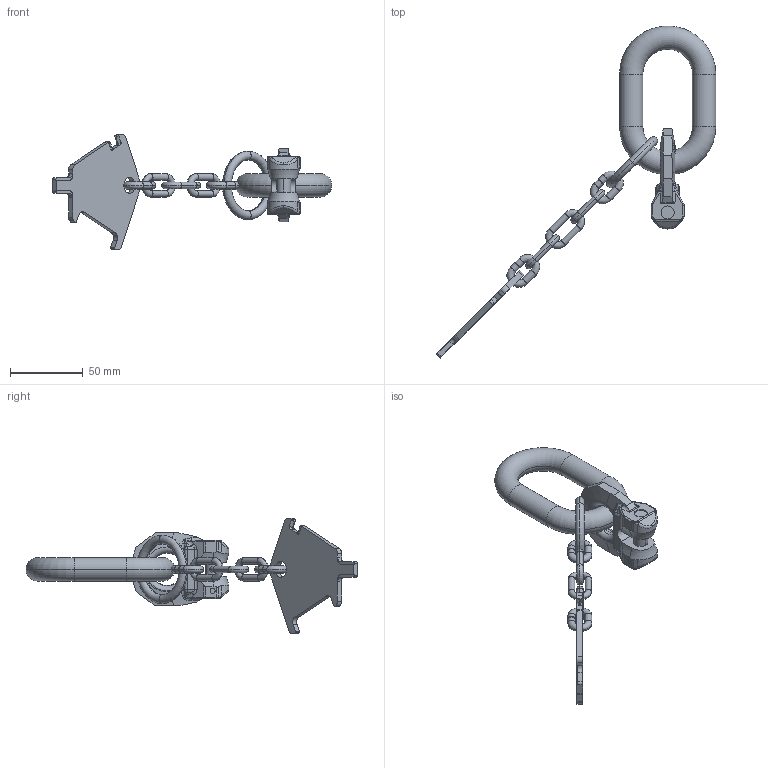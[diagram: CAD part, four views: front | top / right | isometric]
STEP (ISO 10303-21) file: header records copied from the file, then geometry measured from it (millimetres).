
FILE_DESCRIPTION((''),'2;1');
FILE_NAME('001-M34472-P-2_ASM','2014-10-14T',('Andreas.Wendler'),(''),'PRO/ENGINEER BY PARAMETRIC TECHNOLOGY CORPORATION, 2010140','PRO/ENGINEER BY PARAMETRIC TECHNOLOGY CORPORATION, 2010140','');
FILE_SCHEMA(('CONFIG_CONTROL_DESIGN'));
Length unit declared in the file: millimetre
Products named in the file (9): 001-M34472-P-2; 001-M31128-V01; 001-M31557-P-1; 001-M31129-P-1; 001-M33743-001; 001-M31130-003_ASM; 001-M31557-P-1_ASM; 001-M31490-P-3; 001-M34472-P-2_ASM
Assembly tree (11 placements, depth 4):
  001-M34472-P-2_ASM
    001-M34472-P-2
    001-M31128-V01
    001-M31557-P-1_ASM
      001-M31557-P-1
      001-M31129-P-1  x2
      001-M31130-003_ASM
        001-M33743-001  x3
    001-M31490-P-3
Bounding box: 191.75 x 227.75 x 79.4 mm (x, y, z)
Volume: 95500.4 mm3; surface area: 34483.5 mm2
Topology: 9 solids, 9 shells, 562 faces, 1454 edges, 912 vertices
Faces by surface type: plane 299, cylinder 132, bspline 72, torus 42, cone 17
Entity records: 20021 total; most frequent: CARTESIAN_POINT 7949, ORIENTED_EDGE 2800, DIRECTION 2027, EDGE_CURVE 1400, VERTEX_POINT 884, AXIS2_PLACEMENT_3D 753, B_SPLINE_CURVE_WITH_KNOTS 615, EDGE_LOOP 552
